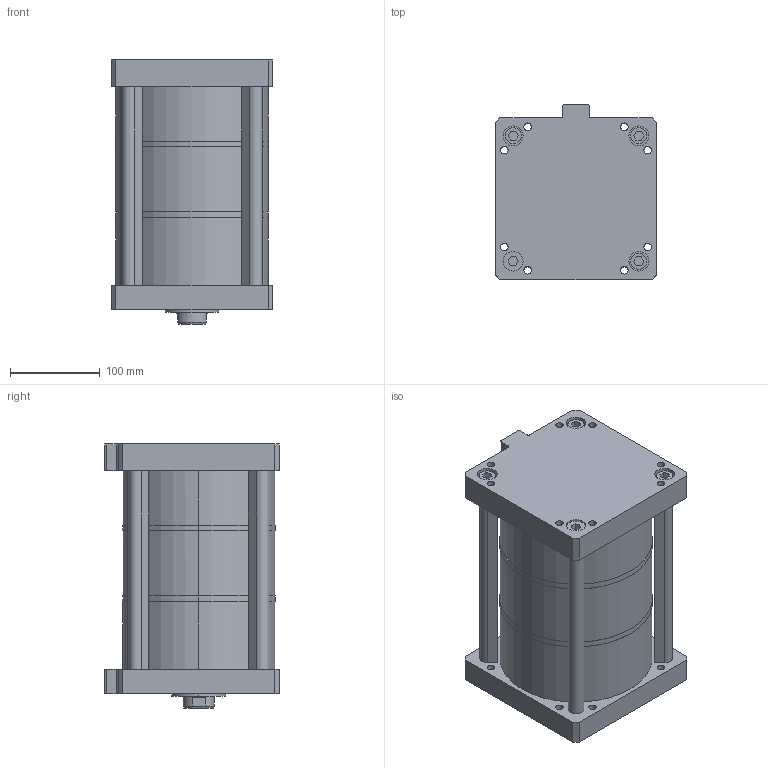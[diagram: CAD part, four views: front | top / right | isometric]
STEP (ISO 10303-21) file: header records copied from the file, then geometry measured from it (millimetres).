
FILE_DESCRIPTION (( 'STEP AP203' ), '1' );
FILE_NAME ('MHK-160-50-F-3.STEP', '2016-03-30T09:35:36', ( 'WIN' ), ( '' ), 'SwSTEP 2.0', 'SolidWorks 2014', '' );
FILE_SCHEMA (( 'CONFIG_CONTROL_DESIGN' ));
Length unit declared in the file: millimetre
Products named in the file (1): MHK-160-50-F-3
Bounding box: 180 x 195 x 294.5 mm (x, y, z)
Volume: 2608733.2 mm3; surface area: 603954 mm2
Topology: 2 solids, 3 shells, 315 faces, 774 edges, 494 vertices
Faces by surface type: plane 183, cylinder 122, cone 10
Entity records: 9463 total; most frequent: DIRECTION 1720, CARTESIAN_POINT 1592, ORIENTED_EDGE 1540, EDGE_CURVE 770, AXIS2_PLACEMENT_3D 638, VERTEX_POINT 494, VECTOR 444, LINE 444
